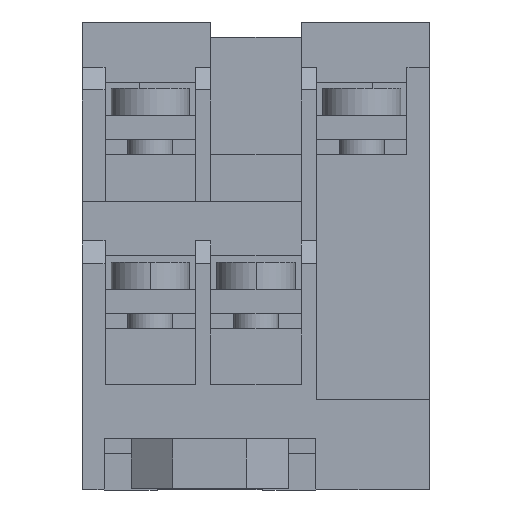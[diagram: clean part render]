
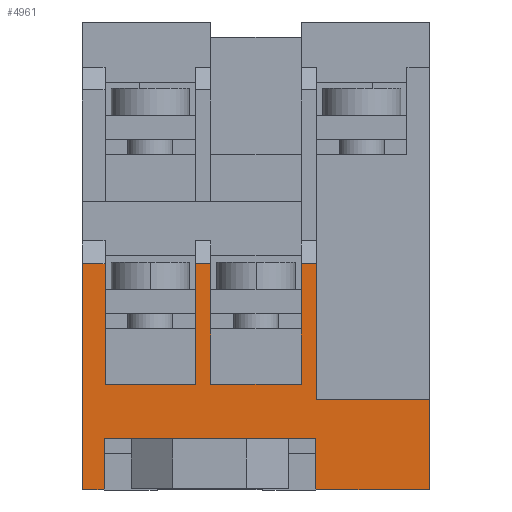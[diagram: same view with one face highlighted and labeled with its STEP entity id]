
A CAD part, front view. The second image highlights one B-rep face of the part: STEP entity #4961.
In plain terms, the highlighted planar face has unit normal (0, -1, 0).
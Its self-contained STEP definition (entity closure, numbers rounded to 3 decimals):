
#48 = LINE ( 'NONE', #49, #50 ) ;
#49 = CARTESIAN_POINT ( 'NONE',  ( 3.4, -36., 11.5 ) ) ;
#50 = VECTOR ( 'NONE', #51, 1000. ) ;
#51 = DIRECTION ( 'NONE',  ( 0., 0., -1. ) ) ;
#146 = CARTESIAN_POINT ( 'NONE',  ( -11.6, -36., -10. ) ) ;
#179 = FACE_OUTER_BOUND ( 'NONE', #5030, .T. ) ;
#180 = PLANE ( 'NONE',  #181 ) ;
#181 = AXIS2_PLACEMENT_3D ( 'NONE', #182, #183, #184 ) ;
#182 = CARTESIAN_POINT ( 'NONE',  ( 3.4, -36., 11.5 ) ) ;
#183 = DIRECTION ( 'NONE',  ( 0., 1., 0. ) ) ;
#184 = DIRECTION ( 'NONE',  ( 0., 0., 1. ) ) ;
#196 = CARTESIAN_POINT ( 'NONE',  ( 3.4, -36., 3.95 ) ) ;
#326 = CARTESIAN_POINT ( 'NONE',  ( 3.4, -36., 11.5 ) ) ;
#426 = ORIENTED_EDGE ( 'NONE', *, *, #697, .T. ) ;
#498 = ORIENTED_EDGE ( 'NONE', *, *, #11147, .T. ) ;
#697 = EDGE_CURVE ( 'NONE', #3965, #947, #5767, .T. ) ;
#728 = LINE ( 'NONE', #729, #730 ) ;
#729 = CARTESIAN_POINT ( 'NONE',  ( 0., -36., 3.95 ) ) ;
#730 = VECTOR ( 'NONE', #731, 1000. ) ;
#731 = DIRECTION ( 'NONE',  ( 0., 0., -1. ) ) ;
#836 = CARTESIAN_POINT ( 'NONE',  ( 0., -36., 3.95 ) ) ;
#890 = CARTESIAN_POINT ( 'NONE',  ( 0., -36., -10.05 ) ) ;
#947 = VERTEX_POINT ( 'NONE', #5864 ) ;
#1005 = ORIENTED_EDGE ( 'NONE', *, *, #11209, .F. ) ;
#1163 = LINE ( 'NONE', #1164, #1165 ) ;
#1164 = CARTESIAN_POINT ( 'NONE',  ( -23.001, -36., 3.95 ) ) ;
#1165 = VECTOR ( 'NONE', #1166, 1000. ) ;
#1166 = DIRECTION ( 'NONE',  ( 1., 0., 0. ) ) ;
#1392 = ORIENTED_EDGE ( 'NONE', *, *, #1757, .F. ) ;
#1489 = CARTESIAN_POINT ( 'NONE',  ( -11.6, -36., -3. ) ) ;
#1490 = LINE ( 'NONE', #1491, #1492 ) ;
#1491 = CARTESIAN_POINT ( 'NONE',  ( 8.93, -36., -3. ) ) ;
#1492 = VECTOR ( 'NONE', #1493, 1000. ) ;
#1493 = DIRECTION ( 'NONE',  ( -1., 0., 0. ) ) ;
#1496 = ORIENTED_EDGE ( 'NONE', *, *, #3645, .T. ) ;
#1590 = EDGE_CURVE ( 'NONE', #10957, #1855, #6141, .T. ) ;
#1598 = CARTESIAN_POINT ( 'NONE',  ( -3.6, -36., -3. ) ) ;
#1757 = EDGE_CURVE ( 'NONE', #1992, #947, #6228, .T. ) ;
#1855 = VERTEX_POINT ( 'NONE', #6265 ) ;
#1992 = VERTEX_POINT ( 'NONE', #6299 ) ;
#2011 = ORIENTED_EDGE ( 'NONE', *, *, #3805, .T. ) ;
#2515 = ORIENTED_EDGE ( 'NONE', *, *, #3898, .T. ) ;
#2636 = ORIENTED_EDGE ( 'NONE', *, *, #2801, .F. ) ;
#2801 = EDGE_CURVE ( 'NONE', #5311, #1992, #6710, .T. ) ;
#2928 = LINE ( 'NONE', #2929, #2930 ) ;
#2929 = CARTESIAN_POINT ( 'NONE',  ( 3.4, -36., 11.5 ) ) ;
#2930 = VECTOR ( 'NONE', #2931, 1000. ) ;
#2931 = DIRECTION ( 'NONE',  ( 1., 0., 0. ) ) ;
#3022 = CARTESIAN_POINT ( 'NONE',  ( -2.6, -36., 11.5 ) ) ;
#3645 = EDGE_CURVE ( 'NONE', #3751, #3875, #8181, .T. ) ;
#3751 = VERTEX_POINT ( 'NONE', #8419 ) ;
#3805 = EDGE_CURVE ( 'NONE', #3875, #4939, #8593, .T. ) ;
#3875 = VERTEX_POINT ( 'NONE', #8710 ) ;
#3898 = EDGE_CURVE ( 'NONE', #4939, #3965, #8740, .T. ) ;
#3965 = VERTEX_POINT ( 'NONE', #8915 ) ;
#4895 = EDGE_CURVE ( 'NONE', #5023, #4969, #48, .T. ) ;
#4939 = VERTEX_POINT ( 'NONE', #146 ) ;
#4961 = ADVANCED_FACE ( 'NONE', ( #179 ), #180, .F. ) ;
#4969 = VERTEX_POINT ( 'NONE', #196 ) ;
#5023 = VERTEX_POINT ( 'NONE', #326 ) ;
#5030 = EDGE_LOOP ( 'NONE', ( #5130, #5411, #8310, #8829, #9878, #5786, #6283, #6956, #7475, #7972, #498, #1005, #1496, #2011, #2515, #426, #1392, #2636 ) ) ;
#5130 = ORIENTED_EDGE ( 'NONE', *, *, #5215, .F. ) ;
#5215 = EDGE_CURVE ( 'NONE', #5265, #5311, #728, .T. ) ;
#5265 = VERTEX_POINT ( 'NONE', #836 ) ;
#5311 = VERTEX_POINT ( 'NONE', #890 ) ;
#5411 = ORIENTED_EDGE ( 'NONE', *, *, #5484, .T. ) ;
#5484 = EDGE_CURVE ( 'NONE', #5265, #4969, #1163, .T. ) ;
#5767 = LINE ( 'NONE', #5768, #5769 ) ;
#5768 = CARTESIAN_POINT ( 'NONE',  ( 3.4, -36., -11.5 ) ) ;
#5769 = VECTOR ( 'NONE', #5770, 1000. ) ;
#5770 = DIRECTION ( 'NONE',  ( 1., 0., 0. ) ) ;
#5786 = ORIENTED_EDGE ( 'NONE', *, *, #11493, .T. ) ;
#5864 = CARTESIAN_POINT ( 'NONE',  ( 3.4, -36., -11.5 ) ) ;
#6141 = LINE ( 'NONE', #6142, #6143 ) ;
#6142 = CARTESIAN_POINT ( 'NONE',  ( 8.93, -36., 3. ) ) ;
#6143 = VECTOR ( 'NONE', #6144, 1000. ) ;
#6144 = DIRECTION ( 'NONE',  ( -1., 0., 0. ) ) ;
#6145 = VERTEX_POINT ( 'NONE', #1489 ) ;
#6146 = EDGE_CURVE ( 'NONE', #6402, #6145, #1490, .T. ) ;
#6228 = LINE ( 'NONE', #6229, #6230 ) ;
#6229 = CARTESIAN_POINT ( 'NONE',  ( 3.4, -36., 11.5 ) ) ;
#6230 = VECTOR ( 'NONE', #6231, 1000. ) ;
#6231 = DIRECTION ( 'NONE',  ( 0., 0., -1. ) ) ;
#6265 = CARTESIAN_POINT ( 'NONE',  ( -11.6, -36., 3. ) ) ;
#6283 = ORIENTED_EDGE ( 'NONE', *, *, #10116, .T. ) ;
#6299 = CARTESIAN_POINT ( 'NONE',  ( 3.4, -36., -10.05 ) ) ;
#6402 = VERTEX_POINT ( 'NONE', #1598 ) ;
#6710 = LINE ( 'NONE', #6711, #6712 ) ;
#6711 = CARTESIAN_POINT ( 'NONE',  ( -23.001, -36., -10.05 ) ) ;
#6712 = VECTOR ( 'NONE', #6713, 1000. ) ;
#6713 = DIRECTION ( 'NONE',  ( 1., 0., 0. ) ) ;
#6956 = ORIENTED_EDGE ( 'NONE', *, *, #1590, .F. ) ;
#7475 = ORIENTED_EDGE ( 'NONE', *, *, #11735, .T. ) ;
#7972 = ORIENTED_EDGE ( 'NONE', *, *, #6146, .T. ) ;
#8181 = LINE ( 'NONE', #8182, #8183 ) ;
#8182 = CARTESIAN_POINT ( 'NONE',  ( -3.6, -36., -10. ) ) ;
#8183 = VECTOR ( 'NONE', #8184, 1000. ) ;
#8184 = DIRECTION ( 'NONE',  ( 0., 0., -1. ) ) ;
#8310 = ORIENTED_EDGE ( 'NONE', *, *, #4895, .F. ) ;
#8419 = CARTESIAN_POINT ( 'NONE',  ( -3.6, -36., -4. ) ) ;
#8593 = LINE ( 'NONE', #8594, #8595 ) ;
#8594 = CARTESIAN_POINT ( 'NONE',  ( 8.93, -36., -10. ) ) ;
#8595 = VECTOR ( 'NONE', #8596, 1000. ) ;
#8596 = DIRECTION ( 'NONE',  ( -1., 0., 0. ) ) ;
#8710 = CARTESIAN_POINT ( 'NONE',  ( -3.6, -36., -10. ) ) ;
#8740 = LINE ( 'NONE', #8741, #8742 ) ;
#8741 = CARTESIAN_POINT ( 'NONE',  ( -11.6, -36., 11.5 ) ) ;
#8742 = VECTOR ( 'NONE', #8743, 1000. ) ;
#8743 = DIRECTION ( 'NONE',  ( 0., 0., -1. ) ) ;
#8829 = ORIENTED_EDGE ( 'NONE', *, *, #9162, .F. ) ;
#8915 = CARTESIAN_POINT ( 'NONE',  ( -11.6, -36., -11.5 ) ) ;
#9162 = EDGE_CURVE ( 'NONE', #9424, #5023, #2928, .T. ) ;
#9424 = VERTEX_POINT ( 'NONE', #3022 ) ;
#9877 = LINE ( 'NONE', #9884, #9885 ) ;
#9878 = ORIENTED_EDGE ( 'NONE', *, *, #10239, .T. ) ;
#9884 = CARTESIAN_POINT ( 'NONE',  ( -11.6, -36., 11.5 ) ) ;
#9885 = VECTOR ( 'NONE', #9886, 1000. ) ;
#9886 = DIRECTION ( 'NONE',  ( 0., 0., -1. ) ) ;
#9968 = LINE ( 'NONE', #9969, #9970 ) ;
#9969 = CARTESIAN_POINT ( 'NONE',  ( -2.6, -36., 11.5 ) ) ;
#9970 = VECTOR ( 'NONE', #9971, 1000. ) ;
#9971 = DIRECTION ( 'NONE',  ( 0., 0., -1. ) ) ;
#10116 = EDGE_CURVE ( 'NONE', #10634, #1855, #9877, .T. ) ;
#10239 = EDGE_CURVE ( 'NONE', #9424, #11736, #9968, .T. ) ;
#10392 = CARTESIAN_POINT ( 'NONE',  ( -11.6, -36., 4. ) ) ;
#10634 = VERTEX_POINT ( 'NONE', #10392 ) ;
#10644 = CARTESIAN_POINT ( 'NONE',  ( -3.6, -36., 3. ) ) ;
#10868 = LINE ( 'NONE', #10869, #10870 ) ;
#10869 = CARTESIAN_POINT ( 'NONE',  ( -11.6, -36., 11.5 ) ) ;
#10870 = VECTOR ( 'NONE', #10871, 1000. ) ;
#10871 = DIRECTION ( 'NONE',  ( 0., 0., -1. ) ) ;
#10923 = LINE ( 'NONE', #10924, #10925 ) ;
#10924 = CARTESIAN_POINT ( 'NONE',  ( 8.93, -36., -4. ) ) ;
#10925 = VECTOR ( 'NONE', #10926, 1000. ) ;
#10926 = DIRECTION ( 'NONE',  ( -1., 0., 0. ) ) ;
#10957 = VERTEX_POINT ( 'NONE', #10644 ) ;
#11147 = EDGE_CURVE ( 'NONE', #6145, #11471, #10868, .T. ) ;
#11209 = EDGE_CURVE ( 'NONE', #3751, #11471, #10923, .T. ) ;
#11274 = CARTESIAN_POINT ( 'NONE',  ( -11.6, -36., -4. ) ) ;
#11291 = LINE ( 'NONE', #11292, #11293 ) ;
#11292 = CARTESIAN_POINT ( 'NONE',  ( 10.714, -36., 4. ) ) ;
#11293 = VECTOR ( 'NONE', #11294, 1000. ) ;
#11294 = DIRECTION ( 'NONE',  ( -1., 0., 0. ) ) ;
#11471 = VERTEX_POINT ( 'NONE', #11274 ) ;
#11493 = EDGE_CURVE ( 'NONE', #11736, #10634, #11291, .T. ) ;
#11505 = LINE ( 'NONE', #11506, #11507 ) ;
#11506 = CARTESIAN_POINT ( 'NONE',  ( -3.6, -36., -3. ) ) ;
#11507 = VECTOR ( 'NONE', #11508, 1000. ) ;
#11508 = DIRECTION ( 'NONE',  ( 0., 0., -1. ) ) ;
#11509 = CARTESIAN_POINT ( 'NONE',  ( -2.6, -36., 4. ) ) ;
#11735 = EDGE_CURVE ( 'NONE', #10957, #6402, #11505, .T. ) ;
#11736 = VERTEX_POINT ( 'NONE', #11509 ) ;
